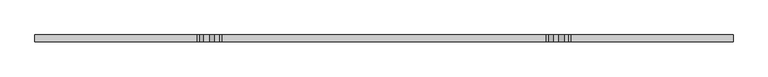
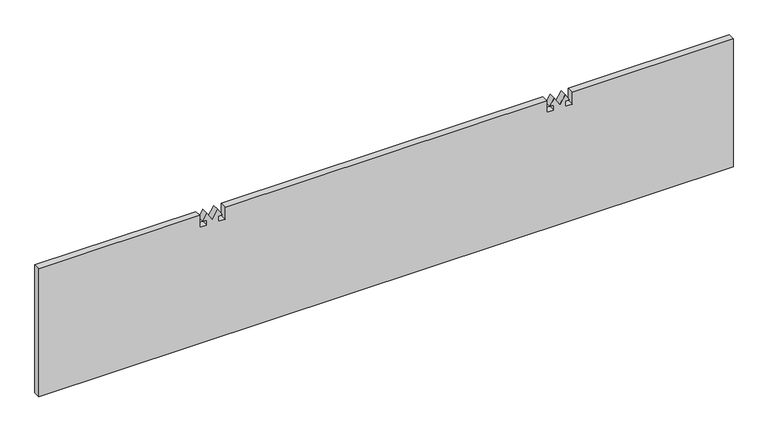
"""IFC4 building model written with IfcOpenShell, lengths in millimetres: proxy geometry, instalación_stratus 10.3dm."""

from ifc_helpers import new_model, si_unit, frame, origin, place, context, project, spatial, polyline, outline, extrude, source, transform, mapped, element, save


def generic_models_d2bc4034(model_context):
    return source(origin(), model_context, "Body", "SweptSolid", [
        extrude(outline(polyline([(-42.5638653, 291.811158), (-42.5638653, 279.553481), (-20.65, 279.553481), (-20.65, 0.0), (-255.6, 0.0), (-255.6, 1206.5), (-20.65, 1206.5), (-20.65, 926.946519), (-42.5638653, 926.946519), (-42.5638653, 914.688842), (-33.2622966, 914.688842), (-33.2622966, 922.0592541), (-20.65, 914.42236), (-36.4174225, 904.875), (-20.65, 895.32764), (-33.2622966, 887.6907459), (-33.2622966, 895.061158), (-42.5638653, 895.061158), (-42.5638653, 882.803481), (-20.65, 882.803481), (-20.65, 323.696519), (-42.5638653, 323.696519), (-42.5638653, 311.438842), (-33.2622966, 311.438842), (-33.2622966, 318.8092541), (-20.65, 311.17236), (-36.4174225, 301.625), (-20.65, 292.07764), (-33.2622966, 284.4407459), (-33.2622966, 291.811158), (-42.5638653, 291.811158)])), frame((0.0, 1170.1110804, 0.0), z_axis=(0.0, 1.0, 0.0), x_axis=(0.0, 0.0, 1.0)), (0.0, 0.0, 1.0), 12.0),
    ])


if __name__ == "__main__":
    model = new_model("IFC4")
    model_context = context("Model", 3, world=origin())
    ifc_project = project(units=[si_unit("LENGTHUNIT", "METRE", prefix="MILLI")], contexts=[model_context])
    site = spatial("IfcSite", under=ifc_project)
    building = spatial("IfcBuilding", under=site)
    placement = place(None, origin())
    generic_models_shape = generic_models_d2bc4034(model_context)
    element("IfcBuildingElementProxy", 1, Name="instalación_stratus 10.3dm", ObjectType="instalación_stratus 10.3dm", at=placement, inside=building, context=model_context, shape_type="MappedRepresentation", body=[
        mapped(generic_models_shape, transform((0.0, 0.0, 0.0), x_axis=(1.0, 0.0, 0.0), y_axis=(0.0, 1.0, 0.0), z_axis=(0.0, 0.0, 1.0))),
    ])
    save(model, "model.ifc")
